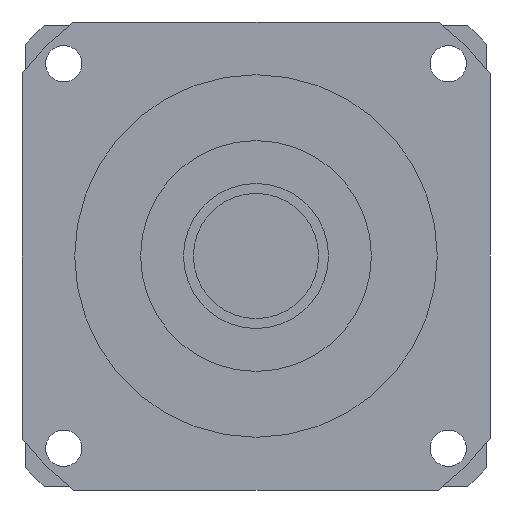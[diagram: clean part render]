
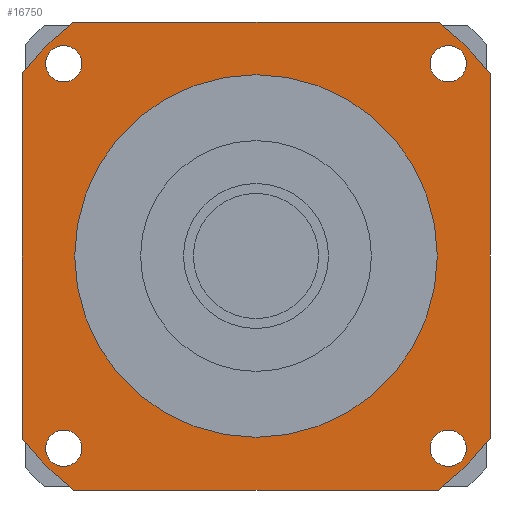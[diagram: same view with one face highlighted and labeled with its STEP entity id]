
A CAD part, left-side view. The second image highlights one B-rep face of the part: STEP entity #16750.
In plain terms, the highlighted planar face has unit normal (-1, 0, 0) as drawn and (0, 0, -1) by its records, which use the part's own axes.
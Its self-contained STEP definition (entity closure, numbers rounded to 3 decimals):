
#13100=CARTESIAN_POINT('',(71.,55.308,-84.7));
#13110=VERTEX_POINT('',#13100);
#13160=CARTESIAN_POINT('',(71.,71.,-84.7));
#13170=DIRECTION('',(0.,-1.,0.));
#13180=VECTOR('',#13170,1000.);
#13190=LINE('',#13160,#13180);
#13200=CARTESIAN_POINT('',(71.,-55.308,-84.7));
#13210=VERTEX_POINT('',#13200);
#13220=EDGE_CURVE('',#13110,#13210,#13190,.T.);
#13470=CARTESIAN_POINT('',(0.,0.,
-84.7));
#13480=DIRECTION('',(0.,0.,-1.));
#13490=DIRECTION('',(1.,0.,0.));
#13500=AXIS2_PLACEMENT_3D('',#13470,#13480,#13490);
#13510=CIRCLE('',#13500,90.);
#13520=CARTESIAN_POINT('',(55.308,-71.,-84.7));
#13530=VERTEX_POINT('',#13520);
#13540=EDGE_CURVE('',#13210,#13530,#13510,.T.);
#15250=CARTESIAN_POINT('',(52.836,-58.336,-84.7));
#15260=VERTEX_POINT('',#15250);
#15290=CARTESIAN_POINT('',(58.336,-58.336,-84.7));
#15300=DIRECTION('',(0.,0.,-1.));
#15310=DIRECTION('',(1.,0.,0.));
#15320=AXIS2_PLACEMENT_3D('',#15290,#15300,#15310);
#15330=CIRCLE('',#15320,5.5);
#15340=CARTESIAN_POINT('',(63.836,-58.336,-84.7));
#15350=VERTEX_POINT('',#15340);
#15360=EDGE_CURVE('',#15350,#15260,#15330,.T.);
#15480=CARTESIAN_POINT('',(71.,71.,-84.7));
#15490=DIRECTION('',(0.,0.,-1.));
#15500=DIRECTION('',(1.,0.,0.));
#15510=AXIS2_PLACEMENT_3D('',#15480,#15490,#15500);
#15520=PLANE('',#15510);
#15530=CARTESIAN_POINT('',(-58.336,-58.336,-84.7));
#15540=DIRECTION('',(0.,0.,-1.));
#15550=DIRECTION('',(0.,-1.,0.));
#15560=AXIS2_PLACEMENT_3D('',#15530,#15540,#15550);
#15570=CIRCLE('',#15560,5.5);
#15580=CARTESIAN_POINT('',(-58.336,-63.836,-84.7));
#15590=VERTEX_POINT('',#15580);
#15600=CARTESIAN_POINT('',(-58.336,-52.836,-84.7));
#15610=VERTEX_POINT('',#15600);
#15620=EDGE_CURVE('',#15590,#15610,#15570,.T.);
#15630=ORIENTED_EDGE('',*,*,#15620,.F.);
#15640=EDGE_CURVE('',#15610,#15590,#15570,.T.);
#15650=ORIENTED_EDGE('',*,*,#15640,.F.);
#15660=EDGE_LOOP('',(#15650,#15630));
#15670=FACE_BOUND('',#15660,.T.);
#15680=CARTESIAN_POINT('',(-58.336,58.336,-84.7));
#15690=DIRECTION('',(0.,0.,-1.));
#15700=DIRECTION('',(-1.,0.,0.));
#15710=AXIS2_PLACEMENT_3D('',#15680,#15690,#15700);
#15720=CIRCLE('',#15710,5.5);
#15730=CARTESIAN_POINT('',(-63.836,58.336,-84.7));
#15740=VERTEX_POINT('',#15730);
#15750=CARTESIAN_POINT('',(-52.836,58.336,-84.7));
#15760=VERTEX_POINT('',#15750);
#15770=EDGE_CURVE('',#15740,#15760,#15720,.T.);
#15780=ORIENTED_EDGE('',*,*,#15770,.F.);
#15790=EDGE_CURVE('',#15760,#15740,#15720,.T.);
#15800=ORIENTED_EDGE('',*,*,#15790,.F.);
#15810=EDGE_LOOP('',(#15800,#15780));
#15820=FACE_BOUND('',#15810,.T.);
#15830=CARTESIAN_POINT('',(58.336,58.336,-84.7));
#15840=DIRECTION('',(0.,0.,-1.));
#15850=DIRECTION('',(0.,1.,0.));
#15860=AXIS2_PLACEMENT_3D('',#15830,#15840,#15850);
#15870=CIRCLE('',#15860,5.5);
#15880=CARTESIAN_POINT('',(58.336,63.836,-84.7));
#15890=VERTEX_POINT('',#15880);
#15900=CARTESIAN_POINT('',(58.336,52.836,-84.7));
#15910=VERTEX_POINT('',#15900);
#15920=EDGE_CURVE('',#15890,#15910,#15870,.T.);
#15930=ORIENTED_EDGE('',*,*,#15920,.F.);
#15940=EDGE_CURVE('',#15910,#15890,#15870,.T.);
#15950=ORIENTED_EDGE('',*,*,#15940,.F.);
#15960=EDGE_LOOP('',(#15950,#15930));
#15970=FACE_BOUND('',#15960,.T.);
#15980=CARTESIAN_POINT('',(0.,0.,
-84.7));
#15990=DIRECTION('',(0.,0.,1.));
#16000=DIRECTION('',(0.,1.,0.));
#16010=AXIS2_PLACEMENT_3D('',#15980,#15990,#16000);
#16020=CIRCLE('',#16010,55.);
#16030=CARTESIAN_POINT('',(-55.,0.,-84.7));
#16040=VERTEX_POINT('',#16030);
#16050=CARTESIAN_POINT('',(55.,0.,-84.7));
#16060=VERTEX_POINT('',#16050);
#16070=EDGE_CURVE('',#16040,#16060,#16020,.T.);
#16080=ORIENTED_EDGE('',*,*,#16070,.T.);
#16090=CARTESIAN_POINT('',(0.,55.,-84.7));
#16100=VERTEX_POINT('',#16090);
#16110=EDGE_CURVE('',#16100,#16040,#16020,.T.);
#16120=ORIENTED_EDGE('',*,*,#16110,.T.);
#16130=EDGE_CURVE('',#16060,#16100,#16020,.T.);
#16140=ORIENTED_EDGE('',*,*,#16130,.T.);
#16150=EDGE_LOOP('',(#16140,#16120,#16080));
#16160=FACE_BOUND('',#16150,.T.);
#16170=CARTESIAN_POINT('',(-71.,71.,-84.7));
#16180=DIRECTION('',(1.,0.,0.));
#16190=VECTOR('',#16180,1000.);
#16200=LINE('',#16170,#16190);
#16210=CARTESIAN_POINT('',(-55.308,71.,-84.7));
#16220=VERTEX_POINT('',#16210);
#16230=CARTESIAN_POINT('',(55.308,71.,-84.7));
#16240=VERTEX_POINT('',#16230);
#16250=EDGE_CURVE('',#16220,#16240,#16200,.T.);
#16260=ORIENTED_EDGE('',*,*,#16250,.T.);
#16270=CARTESIAN_POINT('',(0.,0.,
-84.7));
#16280=DIRECTION('',(0.,0.,-1.));
#16290=DIRECTION('',(1.,0.,0.));
#16300=AXIS2_PLACEMENT_3D('',#16270,#16280,#16290);
#16310=CIRCLE('',#16300,90.);
#16320=CARTESIAN_POINT('',(-71.,55.308,-84.7));
#16330=VERTEX_POINT('',#16320);
#16340=EDGE_CURVE('',#16330,#16220,#16310,.T.);
#16350=ORIENTED_EDGE('',*,*,#16340,.T.);
#16360=CARTESIAN_POINT('',(-71.,-71.,-84.7));
#16370=DIRECTION('',(0.,1.,0.));
#16380=VECTOR('',#16370,1000.);
#16390=LINE('',#16360,#16380);
#16400=CARTESIAN_POINT('',(-71.,-55.308,-84.7));
#16410=VERTEX_POINT('',#16400);
#16420=EDGE_CURVE('',#16410,#16330,#16390,.T.);
#16430=ORIENTED_EDGE('',*,*,#16420,.T.);
#16440=CARTESIAN_POINT('',(0.,0.,
-84.7));
#16450=DIRECTION('',(0.,0.,-1.));
#16460=DIRECTION('',(1.,0.,0.));
#16470=AXIS2_PLACEMENT_3D('',#16440,#16450,#16460);
#16480=CIRCLE('',#16470,90.);
#16490=CARTESIAN_POINT('',(-55.308,-71.,-84.7));
#16500=VERTEX_POINT('',#16490);
#16510=EDGE_CURVE('',#16500,#16410,#16480,.T.);
#16520=ORIENTED_EDGE('',*,*,#16510,.T.);
#16530=CARTESIAN_POINT('',(71.,-71.,-84.7));
#16540=DIRECTION('',(-1.,0.,0.));
#16550=VECTOR('',#16540,1000.);
#16560=LINE('',#16530,#16550);
#16570=EDGE_CURVE('',#13530,#16500,#16560,.T.);
#16580=ORIENTED_EDGE('',*,*,#16570,.T.);
#16590=ORIENTED_EDGE('',*,*,#13540,.T.);
#16600=ORIENTED_EDGE('',*,*,#13220,.T.);
#16610=CARTESIAN_POINT('',(0.,0.,
-84.7));
#16620=DIRECTION('',(0.,0.,-1.));
#16630=DIRECTION('',(1.,0.,0.));
#16640=AXIS2_PLACEMENT_3D('',#16610,#16620,#16630);
#16650=CIRCLE('',#16640,90.);
#16660=EDGE_CURVE('',#16240,#13110,#16650,.T.);
#16670=ORIENTED_EDGE('',*,*,#16660,.T.);
#16680=EDGE_LOOP('',(#16670,#16600,#16590,#16580,#16520,#16430,#16350,
#16260));
#16690=FACE_OUTER_BOUND('',#16680,.T.);
#16700=ORIENTED_EDGE('',*,*,#15360,.F.);
#16710=EDGE_CURVE('',#15260,#15350,#15330,.T.);
#16720=ORIENTED_EDGE('',*,*,#16710,.F.);
#16730=EDGE_LOOP('',(#16720,#16700));
#16740=FACE_BOUND('',#16730,.T.);
#16750=ADVANCED_FACE('',(#15670,#15820,#15970,#16160,#16690,#16740),
#15520,.T.);
